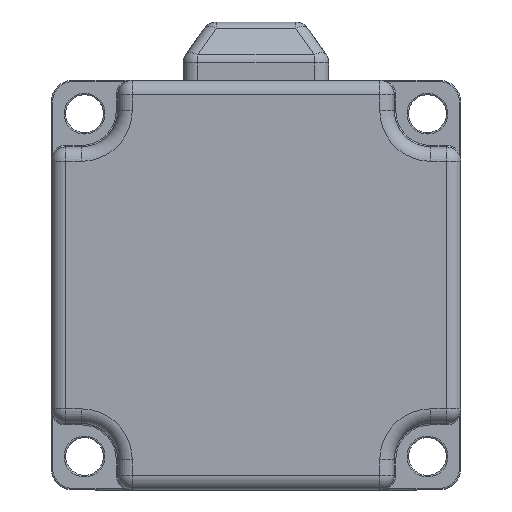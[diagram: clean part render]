
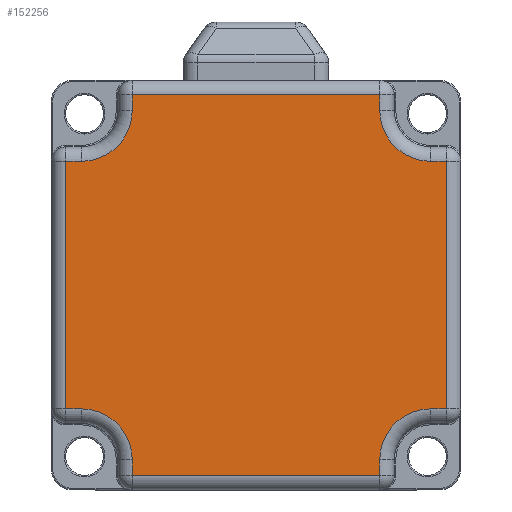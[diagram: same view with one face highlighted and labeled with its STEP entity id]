
A CAD part, front view. The second image highlights one B-rep face of the part: STEP entity #152256.
In plain terms, the highlighted planar face has unit normal (0, -1, 0).
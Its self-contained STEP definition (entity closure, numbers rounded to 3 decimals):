
#1219 = VERTEX_POINT ( 'NONE', #17079 ) ;
#3143 = VECTOR ( 'NONE', #12987, 1000. ) ;
#3221 = CARTESIAN_POINT ( 'NONE',  ( 17., -20., -24. ) ) ;
#3947 = CARTESIAN_POINT ( 'NONE',  ( 0., -20., 0. ) ) ;
#4112 = EDGE_CURVE ( 'NONE', #148687, #130676, #86018, .T. ) ;
#4907 = ORIENTED_EDGE ( 'NONE', *, *, #193056, .T. ) ;
#12505 = ORIENTED_EDGE ( 'NONE', *, *, #37942, .T. ) ;
#12987 = DIRECTION ( 'NONE',  ( 0., 0., 1. ) ) ;
#14677 = ORIENTED_EDGE ( 'NONE', *, *, #122823, .T. ) ;
#15865 = CARTESIAN_POINT ( 'NONE',  ( 17., -20., -26.15 ) ) ;
#17079 = CARTESIAN_POINT ( 'NONE',  ( 26.15, -20., 17. ) ) ;
#19745 = LINE ( 'NONE', #96716, #142006 ) ;
#21307 = EDGE_CURVE ( 'NONE', #81973, #166078, #19745, .T. ) ;
#21457 = CARTESIAN_POINT ( 'NONE',  ( -17., -20., 24. ) ) ;
#22662 = DIRECTION ( 'NONE',  ( 0., 0., -1. ) ) ;
#23740 = EDGE_CURVE ( 'NONE', #173290, #71285, #176021, .T. ) ;
#28422 = ORIENTED_EDGE ( 'NONE', *, *, #81804, .T. ) ;
#29924 = VERTEX_POINT ( 'NONE', #80060 ) ;
#29936 = VECTOR ( 'NONE', #147135, 1000. ) ;
#35388 = AXIS2_PLACEMENT_3D ( 'NONE', #3947, #109212, #94620 ) ;
#37942 = EDGE_CURVE ( 'NONE', #71285, #81973, #164705, .T. ) ;
#39807 = ORIENTED_EDGE ( 'NONE', *, *, #184092, .T. ) ;
#40339 = CIRCLE ( 'NONE', #115162, 7. ) ;
#40790 = ORIENTED_EDGE ( 'NONE', *, *, #23740, .T. ) ;
#41988 = DIRECTION ( 'NONE',  ( -1., 0., 0. ) ) ;
#42145 = CARTESIAN_POINT ( 'NONE',  ( 17., -20., 28.15 ) ) ;
#42357 = EDGE_CURVE ( 'NONE', #130676, #162279, #60586, .T. ) ;
#44870 = DIRECTION ( 'NONE',  ( 0., 0., 1. ) ) ;
#47972 = CARTESIAN_POINT ( 'NONE',  ( 17., -20., 24. ) ) ;
#48130 = ORIENTED_EDGE ( 'NONE', *, *, #137048, .T. ) ;
#49537 = VERTEX_POINT ( 'NONE', #191422 ) ;
#49652 = EDGE_CURVE ( 'NONE', #49537, #1219, #99964, .T. ) ;
#50714 = FACE_OUTER_BOUND ( 'NONE', #121044, .T. ) ;
#51880 = VECTOR ( 'NONE', #41988, 1000. ) ;
#55088 = CARTESIAN_POINT ( 'NONE',  ( 24., -20., -24. ) ) ;
#56067 = DIRECTION ( 'NONE',  ( 0., 0., -1. ) ) ;
#56104 = VECTOR ( 'NONE', #165094, 1000. ) ;
#56459 = EDGE_CURVE ( 'NONE', #1219, #29924, #115223, .T. ) ;
#56642 = DIRECTION ( 'NONE',  ( 0., 1., 0. ) ) ;
#59245 = CARTESIAN_POINT ( 'NONE',  ( 0., -20., 26.15 ) ) ;
#60586 = LINE ( 'NONE', #120129, #56104 ) ;
#60871 = EDGE_CURVE ( 'NONE', #101011, #128726, #104414, .T. ) ;
#60906 = AXIS2_PLACEMENT_3D ( 'NONE', #55088, #174315, #56067 ) ;
#63645 = ORIENTED_EDGE ( 'NONE', *, *, #4112, .T. ) ;
#63844 = DIRECTION ( 'NONE',  ( 0., 0., -1. ) ) ;
#64497 = ORIENTED_EDGE ( 'NONE', *, *, #60871, .T. ) ;
#66263 = ORIENTED_EDGE ( 'NONE', *, *, #101357, .T. ) ;
#66317 = DIRECTION ( 'NONE',  ( 0., 0., -1. ) ) ;
#69118 = CARTESIAN_POINT ( 'NONE',  ( -24., -20., 17. ) ) ;
#69193 = CARTESIAN_POINT ( 'NONE',  ( 0., -20., -17. ) ) ;
#69451 = CARTESIAN_POINT ( 'NONE',  ( 24., -20., -17. ) ) ;
#69558 = AXIS2_PLACEMENT_3D ( 'NONE', #161130, #56642, #99591 ) ;
#69729 = ORIENTED_EDGE ( 'NONE', *, *, #167793, .T. ) ;
#70665 = CARTESIAN_POINT ( 'NONE',  ( -17., -20., -24. ) ) ;
#71285 = VERTEX_POINT ( 'NONE', #82301 ) ;
#71683 = ORIENTED_EDGE ( 'NONE', *, *, #49652, .T. ) ;
#73496 = DIRECTION ( 'NONE',  ( 0., 1., 0. ) ) ;
#73882 = VECTOR ( 'NONE', #121811, 1000. ) ;
#75416 = VECTOR ( 'NONE', #44870, 1000. ) ;
#75943 = VECTOR ( 'NONE', #66317, 1000. ) ;
#77344 = LINE ( 'NONE', #136982, #139871 ) ;
#77884 = VERTEX_POINT ( 'NONE', #179123 ) ;
#78464 = CARTESIAN_POINT ( 'NONE',  ( 24., -20., 24. ) ) ;
#79062 = VECTOR ( 'NONE', #177514, 1000. ) ;
#80060 = CARTESIAN_POINT ( 'NONE',  ( 24., -20., 17. ) ) ;
#80554 = VERTEX_POINT ( 'NONE', #15865 ) ;
#81804 = EDGE_CURVE ( 'NONE', #162279, #80554, #87572, .T. ) ;
#81973 = VERTEX_POINT ( 'NONE', #166225 ) ;
#82301 = CARTESIAN_POINT ( 'NONE',  ( 17., -20., 26.15 ) ) ;
#84860 = CARTESIAN_POINT ( 'NONE',  ( 0., -20., 17. ) ) ;
#85257 = DIRECTION ( 'NONE',  ( 0., 0., -1. ) ) ;
#85309 = CARTESIAN_POINT ( 'NONE',  ( 26.15, -20., 0. ) ) ;
#86018 = CIRCLE ( 'NONE', #104696, 7. ) ;
#87572 = LINE ( 'NONE', #105072, #29936 ) ;
#92647 = CARTESIAN_POINT ( 'NONE',  ( -17., -20., -26.15 ) ) ;
#93358 = ORIENTED_EDGE ( 'NONE', *, *, #56459, .T. ) ;
#94620 = DIRECTION ( 'NONE',  ( 0., 0., -1. ) ) ;
#95633 = LINE ( 'NONE', #155209, #75943 ) ;
#96716 = CARTESIAN_POINT ( 'NONE',  ( -17., -20., 0. ) ) ;
#99591 = DIRECTION ( 'NONE',  ( 0., 0., -1. ) ) ;
#99794 = VERTEX_POINT ( 'NONE', #187290 ) ;
#99964 = LINE ( 'NONE', #85309, #176271 ) ;
#101011 = VERTEX_POINT ( 'NONE', #3221 ) ;
#101357 = EDGE_CURVE ( 'NONE', #166078, #104270, #181953, .T. ) ;
#104270 = VERTEX_POINT ( 'NONE', #69118 ) ;
#104414 = CIRCLE ( 'NONE', #60906, 7. ) ;
#104644 = EDGE_CURVE ( 'NONE', #128726, #49537, #77344, .T. ) ;
#104696 = AXIS2_PLACEMENT_3D ( 'NONE', #133177, #73496, #85257 ) ;
#105072 = CARTESIAN_POINT ( 'NONE',  ( 19., -20., -26.15 ) ) ;
#108949 = LINE ( 'NONE', #179756, #75416 ) ;
#109212 = DIRECTION ( 'NONE',  ( 0., -1., 0. ) ) ;
#115162 = AXIS2_PLACEMENT_3D ( 'NONE', #78464, #138084, #63844 ) ;
#115223 = LINE ( 'NONE', #84860, #51880 ) ;
#120129 = CARTESIAN_POINT ( 'NONE',  ( -17., -20., -28.15 ) ) ;
#121044 = EDGE_LOOP ( 'NONE', ( #147126, #28422, #14677, #64497, #162029, #71683, #93358, #48130, #40790, #12505, #149536, #66263, #69729, #4907, #39807, #63645 ) ) ;
#121811 = DIRECTION ( 'NONE',  ( -1., 0., 0. ) ) ;
#122823 = EDGE_CURVE ( 'NONE', #80554, #101011, #108949, .T. ) ;
#126033 = VECTOR ( 'NONE', #157135, 1000. ) ;
#128726 = VERTEX_POINT ( 'NONE', #69451 ) ;
#130436 = CARTESIAN_POINT ( 'NONE',  ( -24., -20., -17. ) ) ;
#130676 = VERTEX_POINT ( 'NONE', #70665 ) ;
#133177 = CARTESIAN_POINT ( 'NONE',  ( -24., -20., -24. ) ) ;
#136982 = CARTESIAN_POINT ( 'NONE',  ( 28.15, -20., -17. ) ) ;
#137048 = EDGE_CURVE ( 'NONE', #29924, #173290, #40339, .T. ) ;
#137638 = PLANE ( 'NONE',  #35388 ) ;
#138084 = DIRECTION ( 'NONE',  ( 0., 1., 0. ) ) ;
#139871 = VECTOR ( 'NONE', #169218, 1000. ) ;
#142006 = VECTOR ( 'NONE', #22662, 1000. ) ;
#144963 = DIRECTION ( 'NONE',  ( 0., 0., 1. ) ) ;
#147126 = ORIENTED_EDGE ( 'NONE', *, *, #42357, .T. ) ;
#147135 = DIRECTION ( 'NONE',  ( 1., 0., 0. ) ) ;
#148687 = VERTEX_POINT ( 'NONE', #130436 ) ;
#149536 = ORIENTED_EDGE ( 'NONE', *, *, #21307, .T. ) ;
#151057 = LINE ( 'NONE', #167756, #73882 ) ;
#152256 = ADVANCED_FACE ( 'NONE', ( #50714 ), #137638, .T. ) ;
#155209 = CARTESIAN_POINT ( 'NONE',  ( -26.15, -20., -19. ) ) ;
#157135 = DIRECTION ( 'NONE',  ( 1., 0., 0. ) ) ;
#161130 = CARTESIAN_POINT ( 'NONE',  ( -24., -20., 24. ) ) ;
#162029 = ORIENTED_EDGE ( 'NONE', *, *, #104644, .T. ) ;
#162279 = VERTEX_POINT ( 'NONE', #92647 ) ;
#164705 = LINE ( 'NONE', #59245, #79062 ) ;
#165094 = DIRECTION ( 'NONE',  ( 0., 0., -1. ) ) ;
#166078 = VERTEX_POINT ( 'NONE', #21457 ) ;
#166225 = CARTESIAN_POINT ( 'NONE',  ( -17., -20., 26.15 ) ) ;
#167756 = CARTESIAN_POINT ( 'NONE',  ( -28.15, -20., 17. ) ) ;
#167793 = EDGE_CURVE ( 'NONE', #104270, #99794, #151057, .T. ) ;
#169218 = DIRECTION ( 'NONE',  ( 1., 0., 0. ) ) ;
#171924 = LINE ( 'NONE', #69193, #126033 ) ;
#173290 = VERTEX_POINT ( 'NONE', #47972 ) ;
#174315 = DIRECTION ( 'NONE',  ( 0., 1., 0. ) ) ;
#176021 = LINE ( 'NONE', #42145, #3143 ) ;
#176271 = VECTOR ( 'NONE', #144963, 1000. ) ;
#177514 = DIRECTION ( 'NONE',  ( -1., 0., 0. ) ) ;
#179123 = CARTESIAN_POINT ( 'NONE',  ( -26.15, -20., -17. ) ) ;
#179756 = CARTESIAN_POINT ( 'NONE',  ( 17., -20., 0. ) ) ;
#181953 = CIRCLE ( 'NONE', #69558, 7. ) ;
#184092 = EDGE_CURVE ( 'NONE', #77884, #148687, #171924, .T. ) ;
#187290 = CARTESIAN_POINT ( 'NONE',  ( -26.15, -20., 17. ) ) ;
#191422 = CARTESIAN_POINT ( 'NONE',  ( 26.15, -20., -17. ) ) ;
#193056 = EDGE_CURVE ( 'NONE', #99794, #77884, #95633, .T. ) ;
